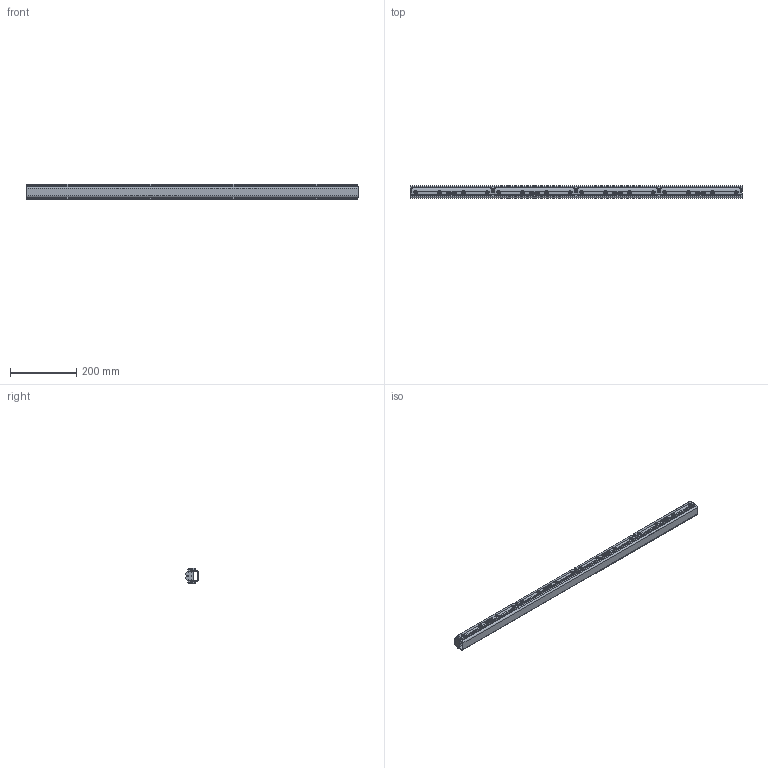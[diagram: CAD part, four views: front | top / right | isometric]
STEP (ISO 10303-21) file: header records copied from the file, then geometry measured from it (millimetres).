
FILE_DESCRIPTION(('STEP AP214'),'1');
FILE_NAME('P35301_01','2016-11-21T11:22:52',('dentellad'),(' '),'Spatial InterOp 3D',' ',' ');
FILE_SCHEMA(('automotive_design'));
Length unit declared in the file: millimetre
Products named in the file (10): 1; 2; 3; 4; 5; 6; 7; 8; 9; 10
Bounding box: 1000 x 37.25 x 46 mm (x, y, z)
Volume: 964572.1 mm3; surface area: 378010.3 mm2
Topology: 10 solids, 10 shells, 4274 faces, 12354 edges, 8164 vertices
Faces by surface type: plane 3694, cylinder 340, torus 144, bspline 96
Entity records: 241347 total; most frequent: CARTESIAN_POINT 40298, ORIENTED_EDGE 24708, DIRECTION 17514, STYLED_ITEM 16606, PRESENTATION_STYLE_ASSIGNMENT 16606, COLOUR_RGB 16606, EDGE_CURVE 12354, CURVE_STYLE 12322
